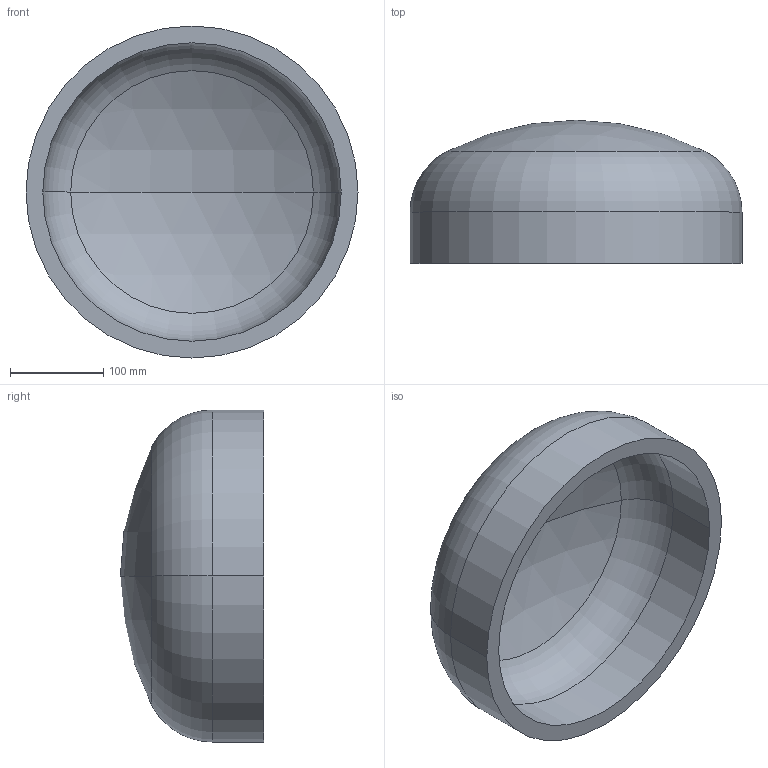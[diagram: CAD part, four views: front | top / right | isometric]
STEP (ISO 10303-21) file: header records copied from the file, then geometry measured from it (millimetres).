
FILE_DESCRIPTION (( 'STEP AP203' ), '1' );
FILE_NAME ('DIN 28013 Korbbogenform_-_Boden DIN 28013 - 355,6 x 55 - I - s=18.step', '2016-07-01T07:46:46', ( '' ), ( '' ), 'SwSTEP 2.0', 'SolidWorks 2013', '' );
FILE_SCHEMA (( 'CONFIG_CONTROL_DESIGN' ));
Length unit declared in the file: millimetre
Products named in the file (1): DIN 28013 Korbbogenform_-_Boden DIN 28013 - 355,6 x 55 - I - s=18
Bounding box: 355.6 x 153.39 x 355.6 mm (x, y, z)
Volume: 3372318.8 mm3; surface area: 394471.4 mm2
Topology: 1 solids, 1 shells, 13 faces, 24 edges, 14 vertices
Faces by surface type: torus 4, cylinder 4, sphere 4, plane 1
Entity records: 407 total; most frequent: DIRECTION 72, CARTESIAN_POINT 52, ORIENTED_EDGE 48, AXIS2_PLACEMENT_3D 34, EDGE_CURVE 24, CIRCLE 20, EDGE_LOOP 14, VERTEX_POINT 14
